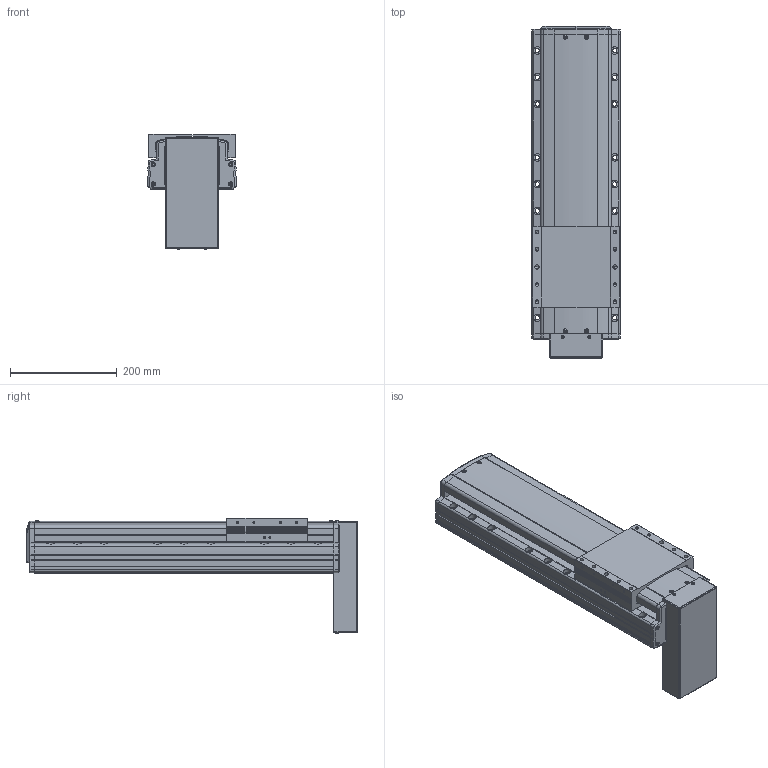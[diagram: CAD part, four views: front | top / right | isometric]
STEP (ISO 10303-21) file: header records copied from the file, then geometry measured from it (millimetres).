
FILE_DESCRIPTION(('STEP AP214'),'1');
FILE_NAME('Z:/Web/3D/PSA165/STP/PSA165-300 (3D)/PSA165ㅁㅁ-300PB.stp','2014-06-23T09:33:12',(' '),(' '),'Spatial InterOp 3D',' ',' ');
FILE_SCHEMA(('automotive_design'));
Length unit declared in the file: millimetre
Products named in the file (29): 스크루 : Round - M4.0 x 12.0; RRCV-PA160; BASE; 스크루 : Round - M4.0 x 10.0; RN15; Screw 20; SLIDE; FRCV; MTPL CV- PB; 스크루 : Round - M3.0 x 6.0; 1; 2
Bounding box: 165 x 620.8 x 215.96 mm (x, y, z)
Volume: 9051781.1 mm3; surface area: 670140.9 mm2
Topology: 29 solids, 29 shells, 2091 faces, 5588 edges, 3564 vertices
Faces by surface type: plane 1158, cylinder 642, cone 198, sphere 52, bspline 25, torus 16
Entity records: 84845 total; most frequent: CARTESIAN_POINT 15010, DIRECTION 11119, ORIENTED_EDGE 10916, EDGE_CURVE 5458, AXIS2_PLACEMENT_3D 3733, LINE 3653, VECTOR 3653, VERTEX_POINT 3564
